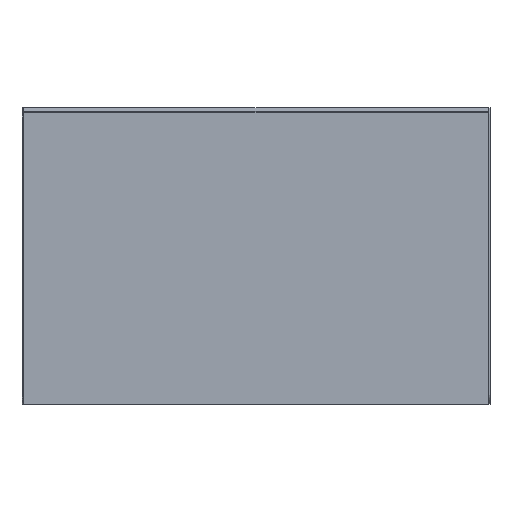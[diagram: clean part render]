
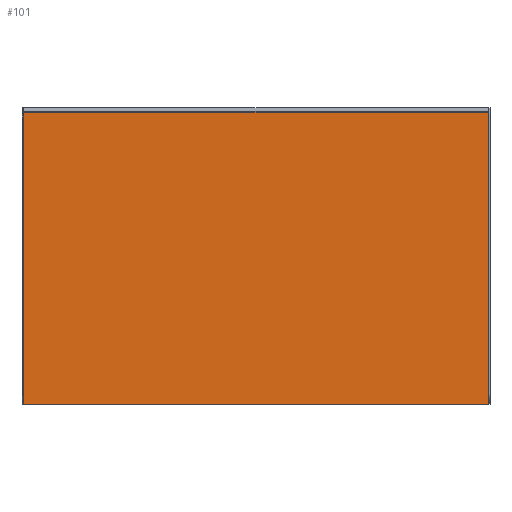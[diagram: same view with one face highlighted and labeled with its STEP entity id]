
A CAD part, front view. The second image highlights one B-rep face of the part: STEP entity #101.
In plain terms, the highlighted planar face has unit normal (0, -1, 0).
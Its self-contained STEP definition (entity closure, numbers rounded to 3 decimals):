
#10 = AXIS2_PLACEMENT_3D ( 'NONE', #1396, #1386, #212 ) ;
#99 = CARTESIAN_POINT ( 'NONE',  ( 547., -15., 347. ) ) ;
#101 = ADVANCED_FACE ( 'NONE', ( #874 ), #448, .T. ) ;
#114 = CARTESIAN_POINT ( 'NONE',  ( -547., -15., 347. ) ) ;
#144 = EDGE_CURVE ( 'NONE', #992, #301, #1520, .T. ) ;
#212 = DIRECTION ( 'NONE',  ( 0., 0., -1. ) ) ;
#217 = EDGE_CURVE ( 'NONE', #301, #1360, #386, .T. ) ;
#252 = DIRECTION ( 'NONE',  ( 0., 0., -1. ) ) ;
#284 = EDGE_LOOP ( 'NONE', ( #1358, #968, #1282, #1395 ) ) ;
#285 = DIRECTION ( 'NONE',  ( 1., 0., 0. ) ) ;
#301 = VERTEX_POINT ( 'NONE', #663 ) ;
#319 = CARTESIAN_POINT ( 'NONE',  ( -547., -15., 347. ) ) ;
#386 = LINE ( 'NONE', #114, #1035 ) ;
#404 = CARTESIAN_POINT ( 'NONE',  ( 547., -15., 347. ) ) ;
#448 = PLANE ( 'NONE',  #10 ) ;
#454 = EDGE_CURVE ( 'NONE', #1360, #705, #1239, .T. ) ;
#505 = VECTOR ( 'NONE', #252, 1000. ) ;
#608 = CARTESIAN_POINT ( 'NONE',  ( 547., -15., -347. ) ) ;
#663 = CARTESIAN_POINT ( 'NONE',  ( -547., -15., -347. ) ) ;
#705 = VERTEX_POINT ( 'NONE', #404 ) ;
#710 = CARTESIAN_POINT ( 'NONE',  ( -547., -15., 347. ) ) ;
#874 = FACE_OUTER_BOUND ( 'NONE', #284, .T. ) ;
#968 = ORIENTED_EDGE ( 'NONE', *, *, #454, .F. ) ;
#992 = VERTEX_POINT ( 'NONE', #608 ) ;
#1024 = EDGE_CURVE ( 'NONE', #705, #992, #1686, .T. ) ;
#1035 = VECTOR ( 'NONE', #1596, 1000. ) ;
#1231 = VECTOR ( 'NONE', #285, 1000. ) ;
#1239 = LINE ( 'NONE', #319, #1231 ) ;
#1254 = DIRECTION ( 'NONE',  ( -1., 0., 0. ) ) ;
#1282 = ORIENTED_EDGE ( 'NONE', *, *, #217, .F. ) ;
#1358 = ORIENTED_EDGE ( 'NONE', *, *, #1024, .F. ) ;
#1360 = VERTEX_POINT ( 'NONE', #710 ) ;
#1379 = CARTESIAN_POINT ( 'NONE',  ( -547., -15., -347. ) ) ;
#1386 = DIRECTION ( 'NONE',  ( 0., -1., 0. ) ) ;
#1395 = ORIENTED_EDGE ( 'NONE', *, *, #144, .F. ) ;
#1396 = CARTESIAN_POINT ( 'NONE',  ( 0., -15., 0. ) ) ;
#1520 = LINE ( 'NONE', #1379, #1695 ) ;
#1596 = DIRECTION ( 'NONE',  ( 0., 0., 1. ) ) ;
#1686 = LINE ( 'NONE', #99, #505 ) ;
#1695 = VECTOR ( 'NONE', #1254, 1000. ) ;
